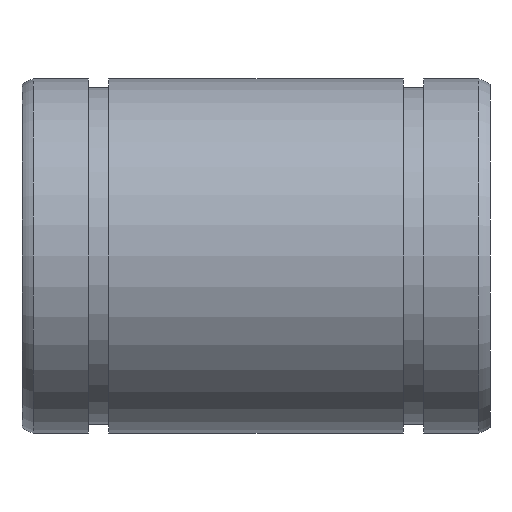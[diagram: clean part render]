
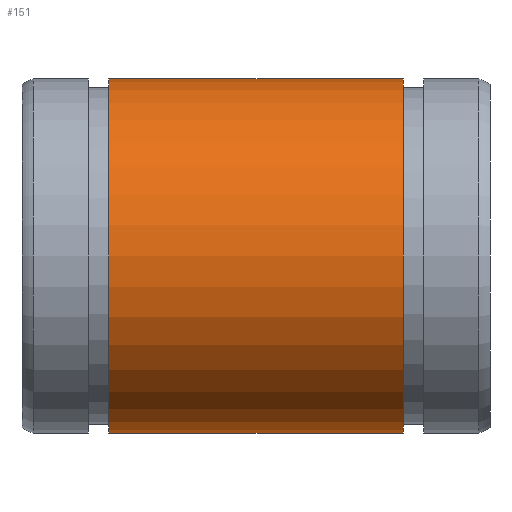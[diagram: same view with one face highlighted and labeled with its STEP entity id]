
A CAD part, front view. The second image highlights one B-rep face of the part: STEP entity #151.
In plain terms, the highlighted cylindrical face has radius 14 mm (diameter 28 mm), a full revolution.
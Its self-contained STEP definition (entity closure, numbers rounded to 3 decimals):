
#117=CARTESIAN_POINT('',(30.15,0.0,14.));
#118=VERTEX_POINT('',#117);
#119=CARTESIAN_POINT('',(30.15,0.0,0.));
#120=DIRECTION('',(-1.0,0.0,0.0));
#121=DIRECTION('',(0.0,0.0,1.0));
#122=AXIS2_PLACEMENT_3D('',#119,#120,#121);
#123=CIRCLE('',#122,14.);
#124=EDGE_CURVE('',#118,#118,#123,.T.);
#132=CARTESIAN_POINT('',(18.5,0.0,0.));
#133=DIRECTION('',(-1.0,0.0,0.0));
#134=DIRECTION('',(0.0,0.0,1.0));
#135=AXIS2_PLACEMENT_3D('',#132,#133,#134);
#136=CYLINDRICAL_SURFACE('',#135,14.);
#137=CARTESIAN_POINT('',(6.85,0.0,14.));
#138=VERTEX_POINT('',#137);
#139=CARTESIAN_POINT('',(6.85,0.0,0.));
#140=DIRECTION('',(-1.0,0.0,0.0));
#141=DIRECTION('',(0.0,0.0,1.0));
#142=AXIS2_PLACEMENT_3D('',#139,#140,#141);
#143=CIRCLE('',#142,14.);
#144=EDGE_CURVE('',#138,#138,#143,.T.);
#145=ORIENTED_EDGE('',*,*,#144,.F.);
#146=EDGE_LOOP('',(#145));
#147=FACE_OUTER_BOUND('',#146,.T.);
#148=ORIENTED_EDGE('',*,*,#124,.T.);
#149=EDGE_LOOP('',(#148));
#150=FACE_BOUND('',#149,.T.);
#151=ADVANCED_FACE('',(#147,#150),#136,.T.);
